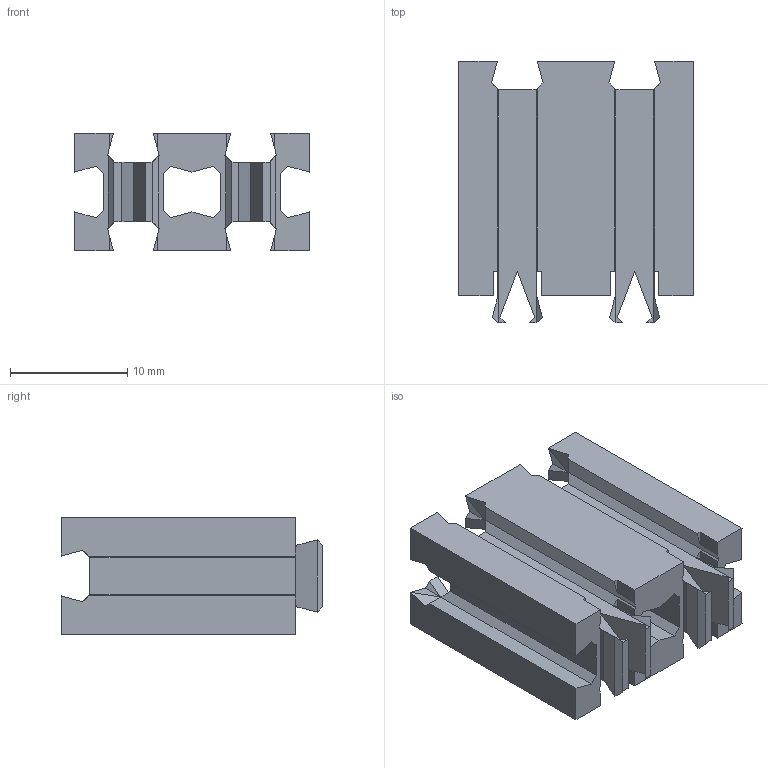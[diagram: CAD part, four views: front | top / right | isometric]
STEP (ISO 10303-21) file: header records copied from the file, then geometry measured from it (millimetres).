
FILE_DESCRIPTION(/* description */ (''),/* implementation_level */ '2;1');
FILE_NAME(/* name */ 'C:/Users/priba/Downloads/Brick1x2x2Cross.step',/* time_stamp */ '2020-06-09T22:11:52+02:00',/* author */ (''),/* organization */ (''),/* preprocessor_version */ 'ST-DEVELOPER v18.1',/* originating_system */ 'Autodesk Translation Framework v9.3.0.1241',/* authorisation */ '');
FILE_SCHEMA (('AUTOMOTIVE_DESIGN { 1 0 10303 214 3 1 1 }'));
Length unit declared in the file: millimetre
Products named in the file (1): Brick1x2x2Cross
Bounding box: 20 x 22.31 x 10 mm (x, y, z)
Volume: 1876.4 mm3; surface area: 3667.6 mm2
Topology: 1 solids, 3 shells, 311 faces, 756 edges, 456 vertices
Faces by surface type: plane 311
Entity records: 8740 total; most frequent: CARTESIAN_POINT 1524, ORIENTED_EDGE 1512, DIRECTION 1380, LINE 756, VECTOR 756, EDGE_CURVE 756, VERTEX_POINT 456, EDGE_LOOP 318
